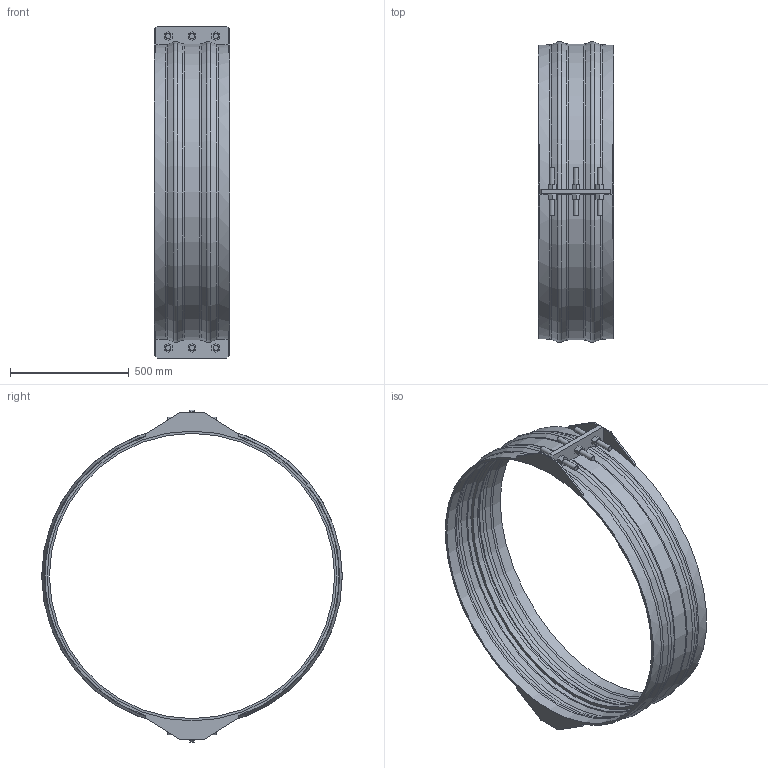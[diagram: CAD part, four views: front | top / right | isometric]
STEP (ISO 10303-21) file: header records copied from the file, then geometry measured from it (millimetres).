
FILE_DESCRIPTION(/* description */ ('VIC RESTRAINED COUPLING STYLE 233 (FLEX) (BRD)','CAx-IF Rec.Pracs.---Representation and Presentation of Product Manufacturing Information (PMI)---4.0---2014-10-13'),/* implementation_level */ '2;1');
FILE_NAME(/* name */ 'C:\Users\Vjadhav\Desktop\CAD for Inventor\Test for STEP\Vivek\Adsk_Inventor_Bolted Sleeve_iParts\STEP\Victaulic_VBSP_Coupling Flexible Restrained_Style 233 (BRD)\Victaulic_VBSP_Coupling Flexible Restrained_Style 233 (BRD)_150psi_48 (1200).stp',/* time_stamp */ '2020-09-24T12:30:05+05:00',/* author */ ('Vjadhav'),/* organization */ ('Victaulic'),/* preprocessor_version */ 'ST-DEVELOPER v17.2',/* originating_system */ 'Autodesk Inventor 2019',/* authorisation */ '');
FILE_SCHEMA (('AP242_MANAGED_MODEL_BASED_3D_ENGINEERING_MIM_LF { 1 0 10303 442 1 1 4 }'));
Length unit declared in the file: inch
Products named in the file (1): Style_233_Type_2_150psi-48.0
Bounding box: 317.5 x 1264.94 x 1397 mm (x, y, z)
Volume: 15050156.3 mm3; surface area: 3017462.2 mm2
Topology: 1 solids, 1 shells, 211 faces, 557 edges, 374 vertices
Faces by surface type: plane 142, cylinder 39, torus 18, cone 12
Full cylindrical faces by diameter (mm): 22.225 x12, 1200.15 x1, 1219.2 x2, 1225.55 x2
Entity records: 7048 total; most frequent: CARTESIAN_POINT 1352, DIRECTION 1127, ORIENTED_EDGE 1114, EDGE_CURVE 557, LINE 389, VECTOR 389, VERTEX_POINT 374, AXIS2_PLACEMENT_3D 369
